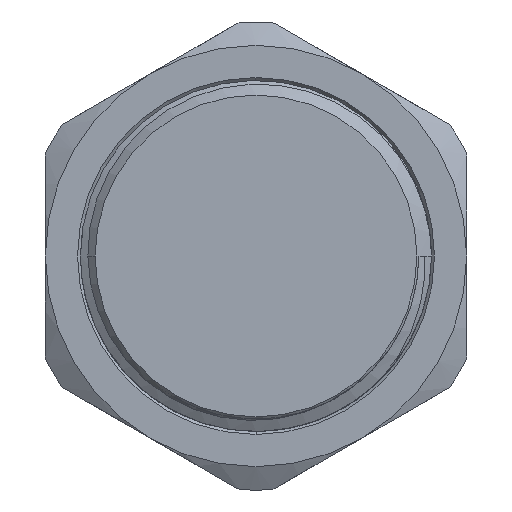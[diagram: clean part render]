
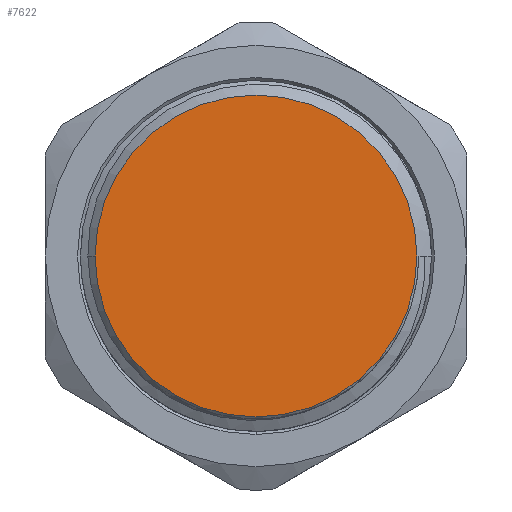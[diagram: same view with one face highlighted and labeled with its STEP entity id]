
A CAD part, front view. The second image highlights one B-rep face of the part: STEP entity #7622.
In plain terms, the highlighted planar face has unit normal (0, -1, 0).
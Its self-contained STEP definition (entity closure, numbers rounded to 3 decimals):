
#508 = EDGE_LOOP ( 'NONE', ( #10958, #3382 ) ) ;
#925 = DIRECTION ( 'NONE',  ( 1., 0., 0. ) ) ;
#943 = AXIS2_PLACEMENT_3D ( 'NONE', #4367, #7068, #11524 ) ;
#1129 = AXIS2_PLACEMENT_3D ( 'NONE', #10615, #9005, #925 ) ;
#2684 = VERTEX_POINT ( 'NONE', #5353 ) ;
#3028 = CARTESIAN_POINT ( 'NONE',  ( 13.75, -58.617, 0. ) ) ;
#3175 = VERTEX_POINT ( 'NONE', #3028 ) ;
#3382 = ORIENTED_EDGE ( 'NONE', *, *, #6529, .F. ) ;
#3931 = CIRCLE ( 'NONE', #9030, 13.75 ) ;
#4367 = CARTESIAN_POINT ( 'NONE',  ( 0., -58.617, 0. ) ) ;
#4813 = DIRECTION ( 'NONE',  ( 1., 0., 0. ) ) ;
#5353 = CARTESIAN_POINT ( 'NONE',  ( -13.75, -58.617, 0. ) ) ;
#5361 = FACE_OUTER_BOUND ( 'NONE', #508, .T. ) ;
#5754 = DIRECTION ( 'NONE',  ( 0., 1., 0. ) ) ;
#6529 = EDGE_CURVE ( 'NONE', #2684, #3175, #3931, .T. ) ;
#6943 = EDGE_CURVE ( 'NONE', #3175, #2684, #8653, .T. ) ;
#7068 = DIRECTION ( 'NONE',  ( 0., 1., 0. ) ) ;
#7127 = PLANE ( 'NONE',  #943 ) ;
#7622 = ADVANCED_FACE ( 'NONE', ( #5361 ), #7127, .F. ) ;
#8653 = CIRCLE ( 'NONE', #1129, 13.75 ) ;
#9005 = DIRECTION ( 'NONE',  ( 0., 1., 0. ) ) ;
#9030 = AXIS2_PLACEMENT_3D ( 'NONE', #10252, #5754, #4813 ) ;
#10252 = CARTESIAN_POINT ( 'NONE',  ( 0., -58.617, 0. ) ) ;
#10615 = CARTESIAN_POINT ( 'NONE',  ( 0., -58.617, 0. ) ) ;
#10958 = ORIENTED_EDGE ( 'NONE', *, *, #6943, .F. ) ;
#11524 = DIRECTION ( 'NONE',  ( 0., 0., 1. ) ) ;
